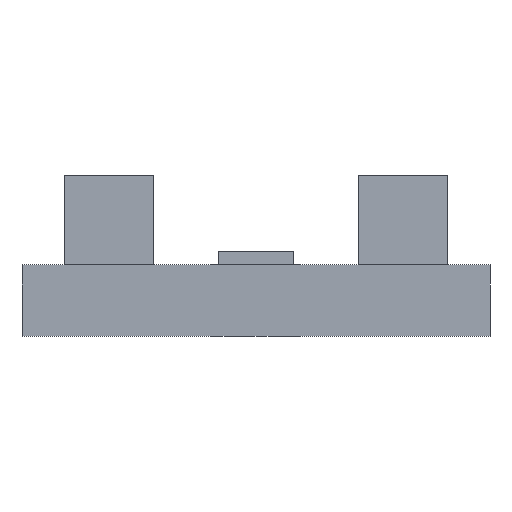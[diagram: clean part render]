
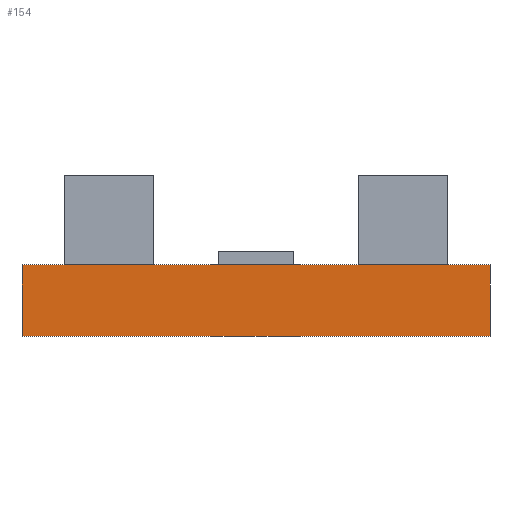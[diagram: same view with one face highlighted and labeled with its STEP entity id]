
A CAD part, front view. The second image highlights one B-rep face of the part: STEP entity #154.
In plain terms, the highlighted planar face has unit normal (0, -1, 0).
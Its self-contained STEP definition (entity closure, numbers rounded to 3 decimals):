
#36=CARTESIAN_POINT('Line Origine',(5.25,-5.333,-0.8)) ;
#40=CARTESIAN_POINT('Vertex',(5.25,-5.333,0.)) ;
#42=CARTESIAN_POINT('Vertex',(5.25,-5.333,-1.6)) ;
#76=CARTESIAN_POINT('Line Origine',(-5.25,-5.333,-0.8)) ;
#80=CARTESIAN_POINT('Vertex',(-5.25,-5.333,-1.6)) ;
#82=CARTESIAN_POINT('Vertex',(-5.25,-5.333,0.)) ;
#133=CARTESIAN_POINT('Axis2P3D Location',(0.,-5.333,0.)) ;
#138=CARTESIAN_POINT('Line Origine',(0.,-5.333,-1.6)) ;
#143=CARTESIAN_POINT('Line Origine',(0.,-5.333,0.)) ;
#38=VECTOR('Line Direction',#37,1.) ;
#78=VECTOR('Line Direction',#77,1.) ;
#140=VECTOR('Line Direction',#139,1.) ;
#145=VECTOR('Line Direction',#144,1.) ;
#37=DIRECTION('Vector Direction',(0.,0.,1.)) ;
#77=DIRECTION('Vector Direction',(0.,0.,-1.)) ;
#134=DIRECTION('Axis2P3D Direction',(0.,1.,-0.)) ;
#135=DIRECTION('Axis2P3D XDirection',(-1.,0.,0.)) ;
#139=DIRECTION('Vector Direction',(1.,0.,0.)) ;
#144=DIRECTION('Vector Direction',(-1.,0.,0.)) ;
#136=AXIS2_PLACEMENT_3D('Plane Axis2P3D',#133,#134,#135) ;
#39=LINE('Line',#36,#38) ;
#79=LINE('Line',#76,#78) ;
#141=LINE('Line',#138,#140) ;
#146=LINE('Line',#143,#145) ;
#137=PLANE('',#136) ;
#44=EDGE_CURVE('',#41,#43,#39,.F.) ;
#84=EDGE_CURVE('',#81,#83,#79,.F.) ;
#142=EDGE_CURVE('',#43,#81,#141,.F.) ;
#147=EDGE_CURVE('',#83,#41,#146,.F.) ;
#148=EDGE_LOOP('',(#149,#150,#151,#152)) ;
#149=ORIENTED_EDGE('',*,*,#84,.F.) ;
#150=ORIENTED_EDGE('',*,*,#142,.F.) ;
#151=ORIENTED_EDGE('',*,*,#44,.F.) ;
#152=ORIENTED_EDGE('',*,*,#147,.F.) ;
#41=VERTEX_POINT('',#40) ;
#43=VERTEX_POINT('',#42) ;
#81=VERTEX_POINT('',#80) ;
#83=VERTEX_POINT('',#82) ;
#154=ADVANCED_FACE('PCB',(#153),#137,.F.) ;
#153=FACE_OUTER_BOUND('',#148,.T.) ;
